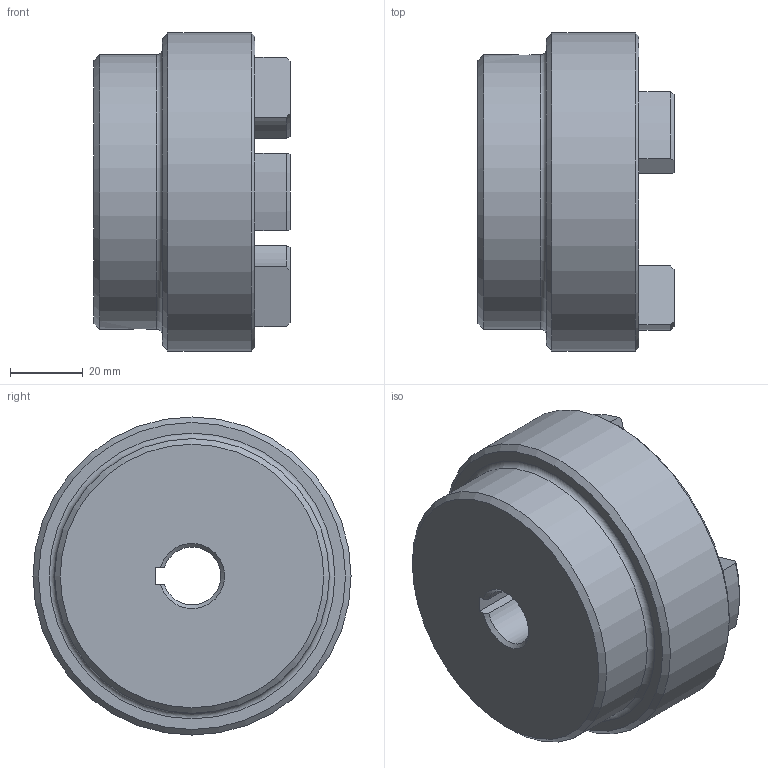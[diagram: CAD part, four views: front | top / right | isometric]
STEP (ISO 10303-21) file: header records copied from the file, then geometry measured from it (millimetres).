
FILE_DESCRIPTION (( 'STEP AP203' ), '1' );
FILE_NAME ('RC3.step', '2024-07-24T12:43:54', ( 'Adlan' ), ( '' ), 'SwSTEP 2.0', 'SolidWorks 2013', '' );
FILE_SCHEMA (( 'CONFIG_CONTROL_DESIGN' ));
Length unit declared in the file: inch
Products named in the file (1): RC3
Bounding box: 53.85 x 87.38 x 87.38 mm (x, y, z)
Volume: 188711.9 mm3; surface area: 30305.9 mm2
Topology: 1 solids, 1 shells, 70 faces, 183 edges, 115 vertices
Faces by surface type: cylinder 26, plane 19, torus 13, cone 12
Full cylindrical faces by diameter (mm): 5.105 x2, 75.438 x1, 87.376 x1
Entity records: 2369 total; most frequent: CARTESIAN_POINT 605, DIRECTION 370, ORIENTED_EDGE 332, EDGE_CURVE 166, AXIS2_PLACEMENT_3D 146, VERTEX_POINT 109, EDGE_LOOP 87, LINE 78
